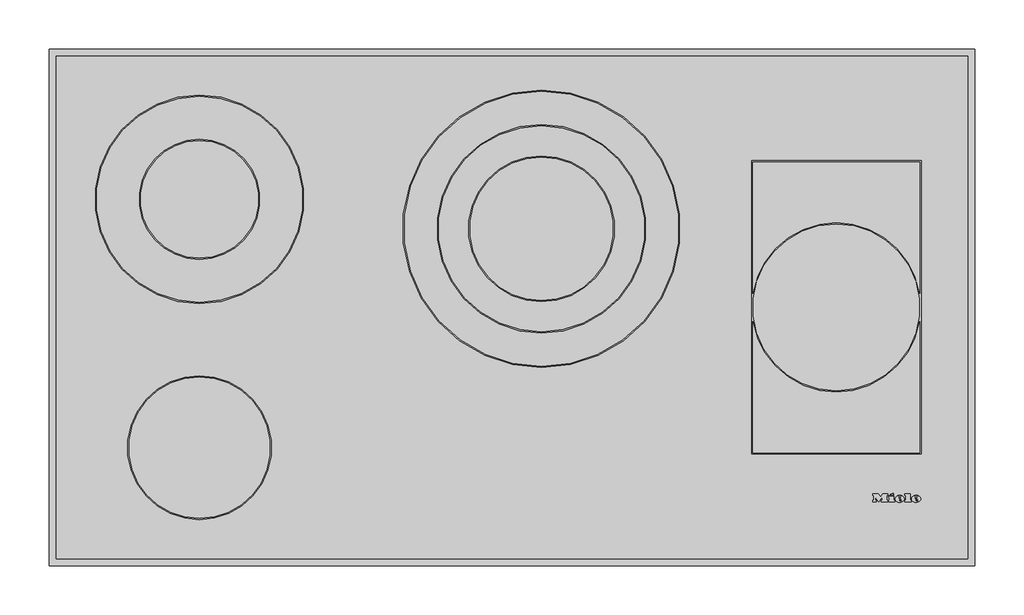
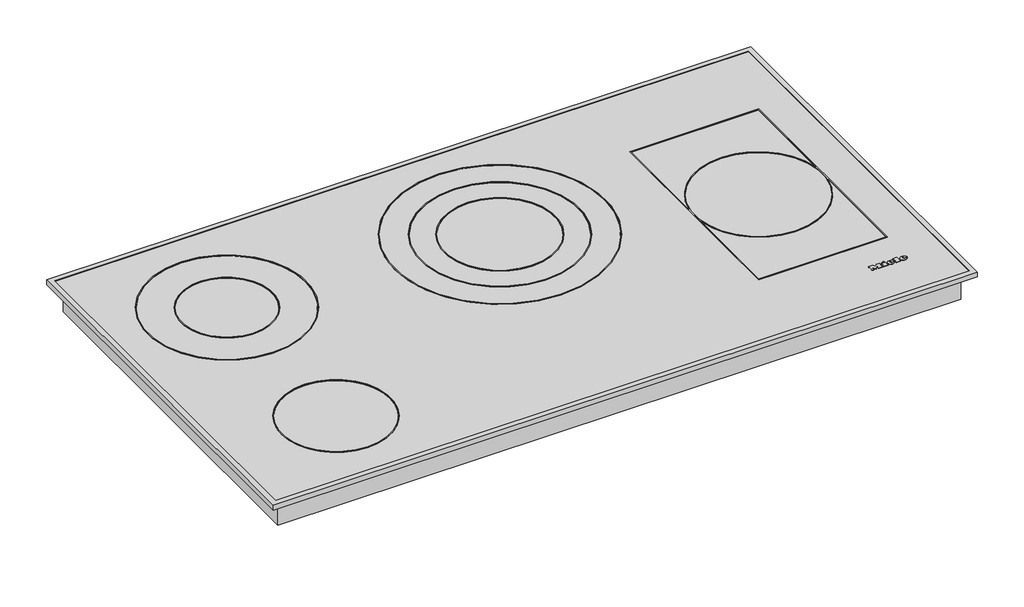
# Not in any storey: 1 proxy.
"""IFC4 building model written with IfcOpenShell, lengths in millimetres."""

from ifc_helpers import new_model, si_unit, origin, place, context, project, spatial, transform, mapped, element, save
from components import specialty_equipment_58cac93b

model = new_model("IFC4")

# Units and contexts
model_context = context("Model", 3, world=origin())
ifc_project = project(units=[si_unit("LENGTHUNIT", "METRE", prefix="MILLI")], contexts=[model_context])

# Site, building
site = spatial("IfcSite", under=ifc_project)
building = spatial("IfcBuilding", under=site)

# Proxy
placement = place(None, origin())
specialty_equipment_shape = specialty_equipment_58cac93b(model_context)
element("IfcBuildingElementProxy", 1, Name="12291800_UA_KM6565FR : 26656500_UA_12291800_KM6565FR", ObjectType="12291800_UA_KM6565FR : 26656500_UA_12291800_KM6565FR", at=placement, inside=building, context=model_context, shape_type="MappedRepresentation", body=[
    mapped(specialty_equipment_shape, transform((0.0, 0.0, 0.0), x_axis=(1.0, 0.0, 0.0), y_axis=(0.0, 1.0, 0.0), z_axis=(0.0, 0.0, 1.0))),
])

save(model, "model.ifc")
